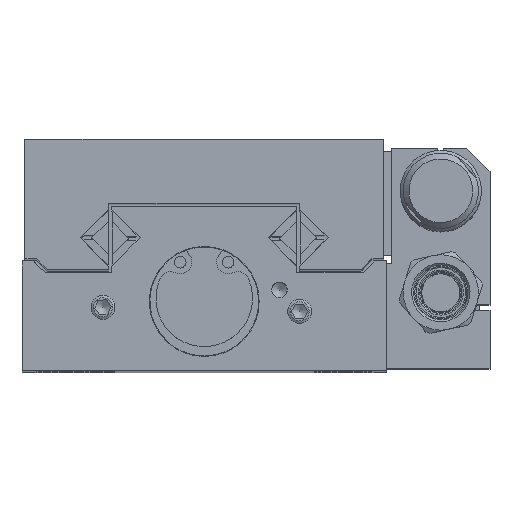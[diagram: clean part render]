
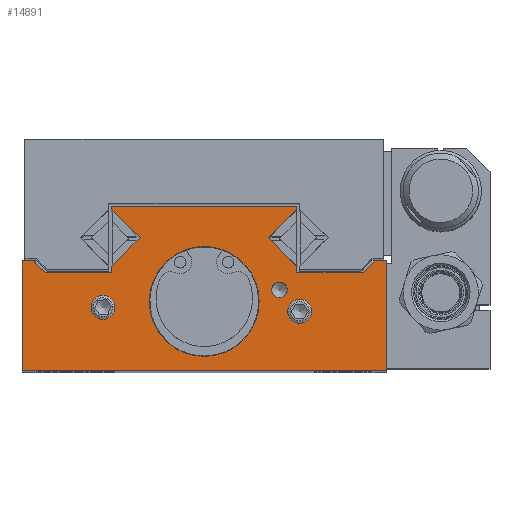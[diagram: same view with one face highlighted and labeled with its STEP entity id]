
A CAD part, top view. The second image highlights one B-rep face of the part: STEP entity #14891.
In plain terms, the highlighted planar face has unit normal (0, 0, 1).
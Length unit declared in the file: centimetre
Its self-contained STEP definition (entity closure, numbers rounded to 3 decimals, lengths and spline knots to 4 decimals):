
#388=PLANE('',#16268);
#919=FACE_BOUND('',#5478,.T.);
#920=FACE_BOUND('',#5479,.T.);
#921=FACE_BOUND('',#5480,.T.);
#922=FACE_BOUND('',#5481,.T.);
#1356=LINE('',#22460,#2383);
#1542=LINE('',#22969,#2569);
#1560=LINE('',#23020,#2587);
#1584=LINE('',#23169,#2611);
#1606=LINE('',#23236,#2633);
#1609=LINE('',#23304,#2636);
#1619=LINE('',#23322,#2646);
#1650=LINE('',#23746,#2677);
#1662=LINE('',#23770,#2689);
#1666=LINE('',#23779,#2693);
#1677=LINE('',#23830,#2704);
#1680=LINE('',#23940,#2707);
#1682=LINE('',#23946,#2709);
#1685=LINE('',#23952,#2712);
#1688=LINE('',#23956,#2715);
#1691=LINE('',#23968,#2718);
#1694=LINE('',#23972,#2721);
#1696=LINE('',#23977,#2723);
#2383=VECTOR('',#18052,1.9);
#2569=VECTOR('',#18504,0.6947);
#2587=VECTOR('',#18554,0.6947);
#2611=VECTOR('',#18716,0.6947);
#2633=VECTOR('',#18768,0.2828);
#2636=VECTOR('',#18855,0.2828);
#2646=VECTOR('',#18867,1.15);
#2677=VECTOR('',#19166,0.2);
#2689=VECTOR('',#19186,6.3);
#2693=VECTOR('',#19196,1.9);
#2704=VECTOR('',#19263,0.2);
#2707=VECTOR('',#19418,0.1088);
#2709=VECTOR('',#19424,0.0588);
#2712=VECTOR('',#19429,3.2);
#2715=VECTOR('',#19434,0.0588);
#2718=VECTOR('',#19445,0.1088);
#2721=VECTOR('',#19450,1.15);
#2723=VECTOR('',#19458,0.6947);
#4264=FACE_OUTER_BOUND('',#5477,.T.);
#5477=EDGE_LOOP('',(#8312,#8313,#8314,#8315,#8316,#8317,#8318,#8319,#8320,
#8321,#8322,#8323,#8324,#8325,#8326,#8327,#8328,#8329));
#5478=EDGE_LOOP('',(#8330));
#5479=EDGE_LOOP('',(#8331));
#5480=EDGE_LOOP('',(#8332));
#5481=EDGE_LOOP('',(#8333));
#8312=ORIENTED_EDGE('',*,*,#10765,.T.);
#8313=ORIENTED_EDGE('',*,*,#10252,.T.);
#8314=ORIENTED_EDGE('',*,*,#10791,.T.);
#8315=ORIENTED_EDGE('',*,*,#10638,.T.);
#8316=ORIENTED_EDGE('',*,*,#10846,.T.);
#8317=ORIENTED_EDGE('',*,*,#10843,.T.);
#8318=ORIENTED_EDGE('',*,*,#10848,.T.);
#8319=ORIENTED_EDGE('',*,*,#10518,.T.);
#8320=ORIENTED_EDGE('',*,*,#10839,.T.);
#8321=ORIENTED_EDGE('',*,*,#10836,.T.);
#8322=ORIENTED_EDGE('',*,*,#10833,.T.);
#8323=ORIENTED_EDGE('',*,*,#10582,.T.);
#8324=ORIENTED_EDGE('',*,*,#10495,.T.);
#8325=ORIENTED_EDGE('',*,*,#10831,.T.);
#8326=ORIENTED_EDGE('',*,*,#10648,.T.);
#8327=ORIENTED_EDGE('',*,*,#10613,.T.);
#8328=ORIENTED_EDGE('',*,*,#10753,.T.);
#8329=ORIENTED_EDGE('',*,*,#10771,.T.);
#8330=ORIENTED_EDGE('',*,*,#10700,.T.);
#8331=ORIENTED_EDGE('',*,*,#9743,.T.);
#8332=ORIENTED_EDGE('',*,*,#9767,.T.);
#8333=ORIENTED_EDGE('',*,*,#10827,.T.);
#9743=EDGE_CURVE('',#11555,#11555,#12865,.T.);
#9767=EDGE_CURVE('',#11573,#11573,#12871,.T.);
#10252=EDGE_CURVE('',#11931,#11930,#1356,.T.);
#10495=EDGE_CURVE('',#12100,#12099,#1542,.T.);
#10518=EDGE_CURVE('',#12117,#12116,#1560,.T.);
#10582=EDGE_CURVE('',#12161,#12100,#1584,.T.);
#10613=EDGE_CURVE('',#12191,#12190,#1606,.T.);
#10638=EDGE_CURVE('',#12214,#12213,#1609,.T.);
#10648=EDGE_CURVE('',#12221,#12191,#1619,.T.);
#10700=EDGE_CURVE('',#12263,#12263,#13181,.T.);
#10753=EDGE_CURVE('',#12190,#12306,#1650,.T.);
#10765=EDGE_CURVE('',#12314,#11931,#1662,.T.);
#10771=EDGE_CURVE('',#12306,#12314,#1666,.T.);
#10791=EDGE_CURVE('',#11930,#12214,#1677,.T.);
#10827=EDGE_CURVE('',#12359,#12359,#13245,.T.);
#10831=EDGE_CURVE('',#12099,#12221,#1680,.T.);
#10833=EDGE_CURVE('',#12361,#12161,#1682,.T.);
#10836=EDGE_CURVE('',#12363,#12361,#1685,.T.);
#10839=EDGE_CURVE('',#12116,#12363,#1688,.T.);
#10843=EDGE_CURVE('',#12368,#12367,#1691,.T.);
#10846=EDGE_CURVE('',#12213,#12368,#1694,.T.);
#10848=EDGE_CURVE('',#12367,#12117,#1696,.T.);
#11555=VERTEX_POINT('',#21140);
#11573=VERTEX_POINT('',#21206);
#11930=VERTEX_POINT('',#22457);
#11931=VERTEX_POINT('',#22459);
#12099=VERTEX_POINT('',#22966);
#12100=VERTEX_POINT('',#22968);
#12116=VERTEX_POINT('',#23017);
#12117=VERTEX_POINT('',#23019);
#12161=VERTEX_POINT('',#23168);
#12190=VERTEX_POINT('',#23233);
#12191=VERTEX_POINT('',#23235);
#12213=VERTEX_POINT('',#23301);
#12214=VERTEX_POINT('',#23303);
#12221=VERTEX_POINT('',#23321);
#12263=VERTEX_POINT('',#23609);
#12306=VERTEX_POINT('',#23744);
#12314=VERTEX_POINT('',#23769);
#12359=VERTEX_POINT('',#23930);
#12361=VERTEX_POINT('',#23945);
#12363=VERTEX_POINT('',#23951);
#12367=VERTEX_POINT('',#23965);
#12368=VERTEX_POINT('',#23967);
#12865=CIRCLE('',#15325,0.2067);
#12871=CIRCLE('',#15343,0.2067);
#13181=CIRCLE('',#16081,0.135);
#13245=CIRCLE('',#16249,0.95);
#14891=ADVANCED_FACE('',(#4264,#919,#920,#921,#922),#388,.T.);
#15325=AXIS2_PLACEMENT_3D('',#21141,#17002,#17003);
#15343=AXIS2_PLACEMENT_3D('',#21207,#17050,#17051);
#16081=AXIS2_PLACEMENT_3D('',#23610,#19008,#19009);
#16249=AXIS2_PLACEMENT_3D('',#23931,#19401,#19402);
#16268=AXIS2_PLACEMENT_3D('',#23976,#19456,#19457);
#17002=DIRECTION('center_axis',(0.,0.,-1.));
#17003=DIRECTION('ref_axis',(1.,0.,0.));
#17050=DIRECTION('center_axis',(0.,0.,-1.));
#17051=DIRECTION('ref_axis',(1.,0.,0.));
#18052=DIRECTION('',(0.,1.,0.));
#18504=DIRECTION('',(-0.707,-0.707,0.));
#18554=DIRECTION('',(0.707,0.707,0.));
#18716=DIRECTION('',(0.707,-0.707,0.));
#18768=DIRECTION('',(-0.707,0.707,0.));
#18855=DIRECTION('',(-0.707,-0.707,0.));
#18867=DIRECTION('',(-1.,0.,0.));
#19008=DIRECTION('center_axis',(0.,0.,-1.));
#19009=DIRECTION('ref_axis',(1.,0.,0.));
#19166=DIRECTION('',(-1.,0.,0.));
#19186=DIRECTION('',(1.,0.,0.));
#19196=DIRECTION('',(0.,-1.,0.));
#19263=DIRECTION('',(-1.,0.,0.));
#19401=DIRECTION('center_axis',(0.,0.,-1.));
#19402=DIRECTION('ref_axis',(1.,0.,0.));
#19418=DIRECTION('',(0.,-1.,0.));
#19424=DIRECTION('',(0.,-1.,0.));
#19429=DIRECTION('',(-1.,0.,0.));
#19434=DIRECTION('',(0.,1.,0.));
#19445=DIRECTION('',(0.,1.,0.));
#19450=DIRECTION('',(-1.,0.,0.));
#19456=DIRECTION('center_axis',(0.,0.,1.));
#19457=DIRECTION('ref_axis',(1.,0.,0.));
#19458=DIRECTION('',(-0.707,0.707,0.));
#21140=CARTESIAN_POINT('',(6.3388,3.5743,36.33));
#21141=CARTESIAN_POINT('Origin',(6.1321,3.5743,36.33));
#21206=CARTESIAN_POINT('',(9.7388,3.5043,36.33));
#21207=CARTESIAN_POINT('Origin',(9.5321,3.5043,36.33));
#22457=CARTESIAN_POINT('',(11.0321,4.3743,36.33));
#22459=CARTESIAN_POINT('',(11.0321,2.4743,36.33));
#22460=CARTESIAN_POINT('',(11.0321,4.3743,36.33));
#22966=CARTESIAN_POINT('',(6.2821,4.2831,36.33));
#22968=CARTESIAN_POINT('',(6.7733,4.7743,36.33));
#22969=CARTESIAN_POINT('',(6.2821,4.2831,36.33));
#23017=CARTESIAN_POINT('',(9.4821,5.2655,36.33));
#23019=CARTESIAN_POINT('',(8.9909,4.7743,36.33));
#23020=CARTESIAN_POINT('',(9.4821,5.2655,36.33));
#23168=CARTESIAN_POINT('',(6.2821,5.2655,36.33));
#23169=CARTESIAN_POINT('',(6.7733,4.7743,36.33));
#23233=CARTESIAN_POINT('',(4.9321,4.3743,36.33));
#23235=CARTESIAN_POINT('',(5.1321,4.1743,36.33));
#23236=CARTESIAN_POINT('',(4.9321,4.3743,36.33));
#23301=CARTESIAN_POINT('',(10.6321,4.1743,36.33));
#23303=CARTESIAN_POINT('',(10.8321,4.3743,36.33));
#23304=CARTESIAN_POINT('',(10.6321,4.1743,36.33));
#23321=CARTESIAN_POINT('',(6.2821,4.1743,36.33));
#23322=CARTESIAN_POINT('',(5.1321,4.1743,36.33));
#23609=CARTESIAN_POINT('',(9.3171,3.8743,36.33));
#23610=CARTESIAN_POINT('Origin',(9.1821,3.8743,36.33));
#23744=CARTESIAN_POINT('',(4.7321,4.3743,36.33));
#23746=CARTESIAN_POINT('',(4.7321,4.3743,36.33));
#23769=CARTESIAN_POINT('',(4.7321,2.4743,36.33));
#23770=CARTESIAN_POINT('',(11.0321,2.4743,36.33));
#23779=CARTESIAN_POINT('',(4.7321,2.4743,36.33));
#23830=CARTESIAN_POINT('',(10.8321,4.3743,36.33));
#23930=CARTESIAN_POINT('',(8.8321,3.6743,36.33));
#23931=CARTESIAN_POINT('Origin',(7.8821,3.6743,36.33));
#23940=CARTESIAN_POINT('',(6.2821,4.1743,36.33));
#23945=CARTESIAN_POINT('',(6.2821,5.3243,36.33));
#23946=CARTESIAN_POINT('',(6.2821,5.2655,36.33));
#23951=CARTESIAN_POINT('',(9.4821,5.3243,36.33));
#23952=CARTESIAN_POINT('',(6.2821,5.3243,36.33));
#23956=CARTESIAN_POINT('',(9.4821,5.3243,36.33));
#23965=CARTESIAN_POINT('',(9.4821,4.2831,36.33));
#23967=CARTESIAN_POINT('',(9.4821,4.1743,36.33));
#23968=CARTESIAN_POINT('',(9.4821,4.2831,36.33));
#23972=CARTESIAN_POINT('',(9.4821,4.1743,36.33));
#23976=CARTESIAN_POINT('Origin',(7.8821,3.7712,36.33));
#23977=CARTESIAN_POINT('',(8.9909,4.7743,36.33));
